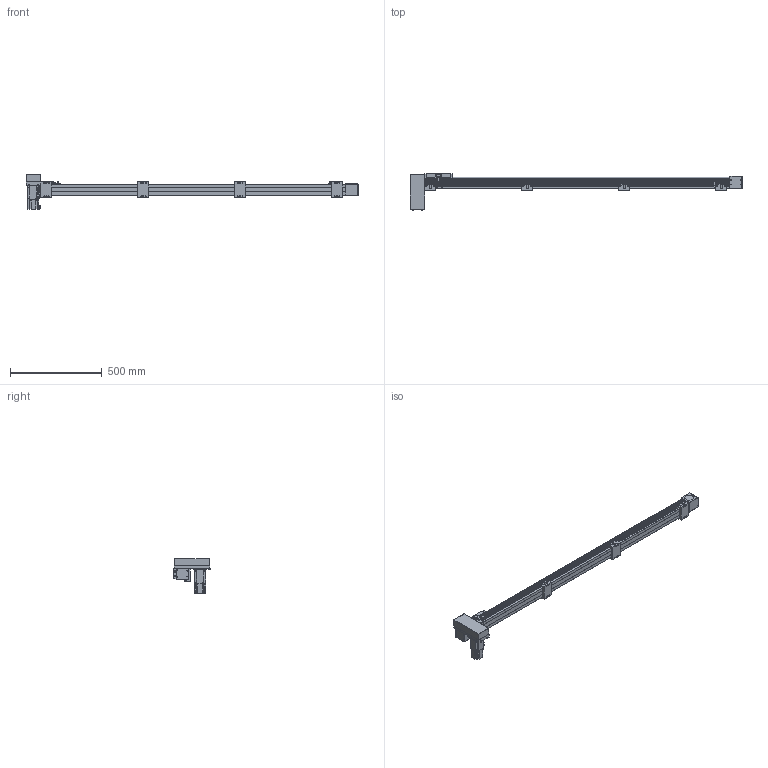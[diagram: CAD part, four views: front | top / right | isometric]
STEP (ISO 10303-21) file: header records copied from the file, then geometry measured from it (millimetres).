
FILE_DESCRIPTION(/* description */ ('STEP AP214'),/* implementation_level */ '2;1');
FILE_NAME(/* name */ 'SK60-P13-S1500-RD-T40-C1-N(0)',/* time_stamp */ '2023-04-06T04:56:05+02:00',/* author */ ('License CC BY-ND 4.0'),/* organization */ ('CADENAS'),/* preprocessor_version */ 'ST-DEVELOPER v19.3',/* originating_system */ 'PARTsolutions',/* authorisation */ ' ');
FILE_SCHEMA (('AUTOMOTIVE_DESIGN {1 0 10303 214 3 1 1}'));
Length unit declared in the file: millimetre
Products named in the file (10): SK60-P13-S1500-RD-T40-C1-N(0); PSC140-sensor; SK60-S450_seat; SK60-S450-BL-C1_slider; SK60_body3; SK60_body6; SK60-BL_body2; T40-p1; SK60-RD_fb; SK60-S1500-RD-C1_body
Assembly tree (18 placements, depth 2):
  SK60-P13-S1500-RD-T40-C1-N(0)
    PSC140-sensor  x3
    SK60-S450_seat  x4
    SK60-S450-BL-C1_slider
    SK60_body3  x3
    SK60_body6  x2
    SK60-BL_body2  x2
    T40-p1
    SK60-RD_fb
    SK60-S1500-RD-C1_body
Bounding box: 1805.5 x 199 x 189.7 mm (x, y, z)
Volume: 7367551.4 mm3; surface area: 905013.5 mm2
Topology: 18 solids, 18 shells, 898 faces, 2244 edges, 1477 vertices
Faces by surface type: plane 572, cylinder 294, cone 30, torus 2
Full cylindrical faces by diameter (mm): 2.8 x3, 3.3 x4, 4 x2, 4.5 x30, 4.6 x3, 4.917 x24, 5 x6, 5.478 x4, 5.5 x27, 6.5 x8, 7 x2, 8 x4, 8.5 x4, 9.988 x4, 10 x16, 14 x1, 47 x3, 50 x2
Entity records: 18671 total; most frequent: DIRECTION 3188, CARTESIAN_POINT 3152, ORIENTED_EDGE 2940, EDGE_CURVE 1470, AXIS2_PLACEMENT_3D 1070, LINE 1048, VECTOR 1048, VERTEX_POINT 1034
